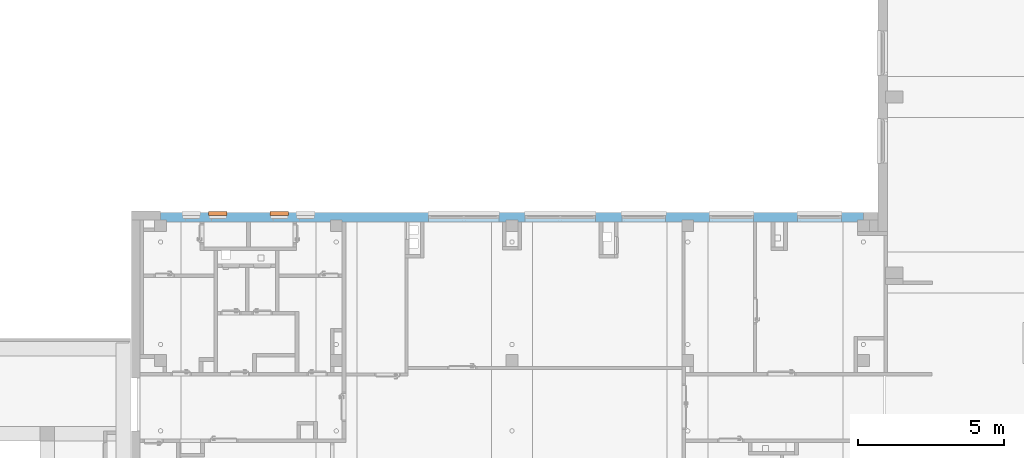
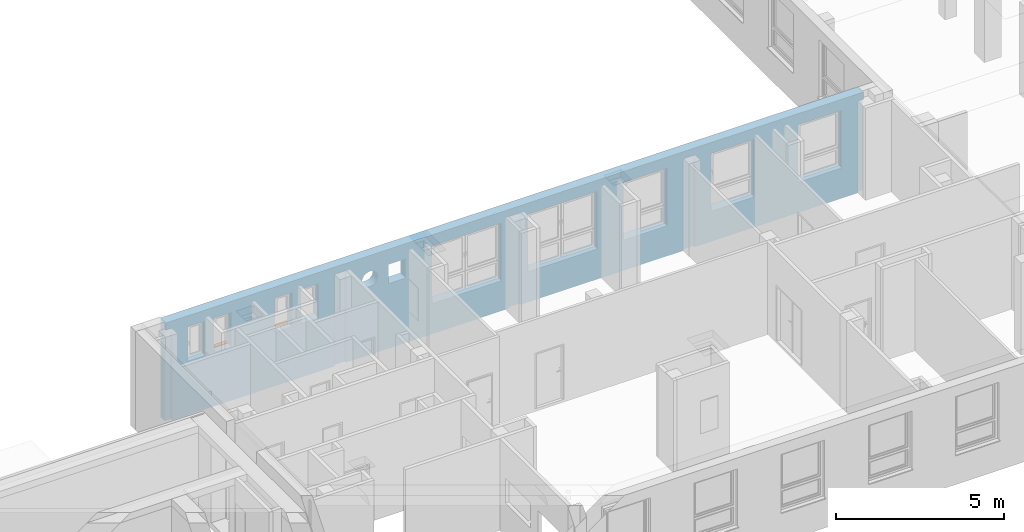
# One storey, part 38 of 50: 2 proxies, 11 openings, plus 1 element that does not belong to this part.
"""IFC4 building model written with IfcOpenShell, lengths in metres."""

from ifc_helpers import new_model, entity, si_unit, converted_unit, derived_unit, frame, frame_2d, origin, origin_with_axes, place, context, subcontext, project, spatial, polyline, rectangle, outline, extrude, clip, bounded_halfspace, faceted_brep, source, transform, mapped, material, layer, layer_set, layer_usage, element, fill, save


model = new_model("IFC4")

# Units and contexts
model_context = context("Model", 3, precision=1e-05, world=origin())
body_context = subcontext(model_context, "Body", "Model", "MODEL_VIEW")
ifc_project = project(units=[si_unit("LENGTHUNIT", "METRE"), si_unit("AREAUNIT", "SQUARE_METRE"), si_unit("VOLUMEUNIT", "CUBIC_METRE"), si_unit("MASSUNIT", "GRAM", prefix="KILO"), converted_unit("PLANEANGLEUNIT", "DEGREE", entity("IfcPlaneAngleMeasure", 0.0174532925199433), si_unit("PLANEANGLEUNIT", "RADIAN"), dimensions=[0, 0, 0, 0, 0, 0, 0]), derived_unit("THERMALTRANSMITTANCEUNIT", [(si_unit("POWERUNIT", "WATT"), 1), (si_unit("THERMODYNAMICTEMPERATUREUNIT", "KELVIN"), -1), (si_unit("LENGTHUNIT", "METRE"), -2)]), derived_unit("VOLUMETRICFLOWRATEUNIT", [(si_unit("LENGTHUNIT", "METRE"), 3), (converted_unit("TIMEUNIT", "hour", entity("IfcTimeMeasure", 3600.0), si_unit("TIMEUNIT", "SECOND"), dimensions=[0, 0, 1, 0, 0, 0, 0]), -1), (si_unit("LENGTHUNIT", "METRE"), -1)])], contexts=[model_context])

# Site, building, storey
site_placement = place(None, origin())
site = spatial("IfcSite", under=ifc_project, at=site_placement, Name="3. ASŘ", CompositionType="ELEMENT")
building_placement = place(site_placement, origin())
building = spatial("IfcBuilding", under=site, at=building_placement, Name="Pavilon C", CompositionType="ELEMENT")
storey_placement = place(building_placement, frame((0.0, 0.0, 3.6)))
storey = spatial("IfcBuildingStorey", under=building, at=storey_placement, Name="Půdorys 2.NP", CompositionType="ELEMENT", Elevation=3.6)

# Wall, openings, proxies
ifc_material_1 = material(Name="ZELEZOBETONOVÁ KCE")
ifc_layer = layer(ifc_material_1, 0.32)
ifc_layer_set = layer_set([ifc_layer])
ifc_layer_usage = layer_usage(ifc_layer_set, "AXIS2", "POSITIVE", 0.0)
wall_placement = place(storey_placement, frame((24.0, 15.25, -0.1), z_axis=(0.0, 0.0, 1.0), x_axis=(-1.0, 0.0, 0.0)))
wall = element("IfcWall", 1, at=wall_placement, inside=storey, material=ifc_layer_usage, Name="ZELEZOBETONOVÁ KCE", context=body_context, shape_type="Clipping", body=[
    clip(clip(clip(clip(clip(extrude(rectangle(XDim=24.0, YDim=0.32, at=frame_2d((12.0, 0.16), x_axis=(1.0, 0.0))), origin_with_axes(), (0.0, 0.0, 1.0), 3.6), bounded_halfspace(frame((23.9, 0.285000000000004, 3.35), z_axis=(0.0, 0.0, 1.0), x_axis=(1.0, 0.0, 0.0)), True, origin_with_axes(), polyline([(23.8, 0.250000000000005), (24.0, 0.250000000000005), (24.0, 0.32), (23.8, 0.320000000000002), (23.8, 0.250000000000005)]))), bounded_halfspace(frame((0.0999999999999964, 0.285000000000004, 3.35), z_axis=(0.0, 0.0, 1.0), x_axis=(1.0, 0.0, 0.0)), True, origin_with_axes(), polyline([(0.0, 0.250000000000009), (0.199999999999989, 0.250000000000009), (0.199999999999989, 0.320000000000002), (0.0, 0.32), (0.0, 0.250000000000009)]))), bounded_halfspace(frame((12.0, 0.285000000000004, 3.35), z_axis=(0.0, 0.0, 1.0), x_axis=(1.0, 0.0, 0.0)), True, origin_with_axes(), polyline([(11.8, 0.250000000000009), (12.2, 0.250000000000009), (12.2, 0.32), (11.8, 0.32), (11.8, 0.250000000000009)]))), bounded_halfspace(frame((5.99999999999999, 0.285000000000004, 3.35), z_axis=(0.0, 0.0, 1.0), x_axis=(1.0, 0.0, 0.0)), True, origin_with_axes(), polyline([(5.79999999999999, 0.250000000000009), (6.19999999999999, 0.250000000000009), (6.19999999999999, 0.32), (5.79999999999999, 0.32), (5.79999999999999, 0.250000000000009)]))), bounded_halfspace(frame((18.0, 0.285000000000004, 3.35), z_axis=(0.0, 0.0, 1.0), x_axis=(1.0, 0.0, 0.0)), True, origin_with_axes(), polyline([(17.8, 0.250000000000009), (18.2, 0.250000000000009), (18.2, 0.32), (17.8, 0.32), (17.8, 0.250000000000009)]))),
])
opening_1_placement = place(wall_placement, frame((16.7, 0.0, 2.475), z_axis=(0.0, 1.0, 0.0), x_axis=(0.0, 0.0, 1.0)))
element("IfcOpeningElement", 2, at=opening_1_placement, cuts=wall, Name="Prostup stěnou", ObjectType="Opening", context=body_context, shape_type="SweptSolid", body=[
    extrude(outline(polyline([(0.274999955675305, 0.55), (0.303745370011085, 0.548493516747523), (0.332175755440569, 0.543990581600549), (0.359979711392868, 0.536540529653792), (0.386852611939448, 0.526224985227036), (0.412500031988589, 0.5131569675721), (0.436640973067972, 0.497479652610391), (0.459010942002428, 0.479364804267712), (0.479364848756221, 0.459010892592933), (0.497479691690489, 0.436640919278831), (0.513157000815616, 0.412499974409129), (0.526225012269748, 0.38685255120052), (0.536540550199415, 0.35997964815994), (0.54399059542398, 0.332175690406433), (0.548493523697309, 0.303745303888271), (0.549999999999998, 0.274999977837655), (0.548493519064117, 0.246254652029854), (0.543990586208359, 0.217824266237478), (0.536540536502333, 0.190020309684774), (0.526224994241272, 0.163147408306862), (0.51315697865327, 0.137499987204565), (0.497479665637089, 0.113359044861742), (0.479364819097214, 0.090989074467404), (0.459010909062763, 0.0706351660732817), (0.436640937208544, 0.0525203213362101), (0.412499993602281, 0.0368430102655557), (0.386852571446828, 0.0237749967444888), (0.35997966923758, 0.0134594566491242), (0.332175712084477, 0.00600940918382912), (0.303745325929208, 0.00150647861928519), (0.274999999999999, 0.0), (0.24625467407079, 0.00150647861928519), (0.217824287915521, 0.00600940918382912), (0.190020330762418, 0.0134594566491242), (0.16314742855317, 0.0237749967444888), (0.137500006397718, 0.0368430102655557), (0.113359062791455, 0.0525203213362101), (0.0909890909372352, 0.0706351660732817), (0.0706351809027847, 0.090989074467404), (0.0525203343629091, 0.113359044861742), (0.0368430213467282, 0.137499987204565), (0.0237750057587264, 0.163147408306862), (0.0134594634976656, 0.190020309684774), (0.00600941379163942, 0.217824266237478), (0.00150648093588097, 0.246254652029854), (0.0, 0.274999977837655), (0.00150647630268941, 0.303745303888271), (0.00600940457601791, 0.332175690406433), (0.0134594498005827, 0.35997964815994), (0.0237749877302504, 0.38685255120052), (0.0368429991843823, 0.412499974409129), (0.0525203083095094, 0.436640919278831), (0.0706351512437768, 0.459010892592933), (0.0909890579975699, 0.479364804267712), (0.113359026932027, 0.497479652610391), (0.137499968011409, 0.5131569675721), (0.16314738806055, 0.526224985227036), (0.19002028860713, 0.536540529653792), (0.21782424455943, 0.543990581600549), (0.246254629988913, 0.548493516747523), (0.274999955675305, 0.55)])), origin_with_axes(), (0.0, 0.0, 1.0), 0.32),
])
opening_2_placement = place(wall_placement, frame((15.75, 0.0, 2.35), z_axis=(0.0, 1.0, 0.0), x_axis=(0.0, 0.0, 1.0)))
element("IfcOpeningElement", 3, at=opening_2_placement, cuts=wall, Name="Prostup stěnou", ObjectType="Opening", context=body_context, shape_type="SweptSolid", body=[
    extrude(outline(polyline([(0.0, 0.6), (0.7, 0.6), (0.7, 0.0), (0.0, 0.0), (0.0, 0.6)])), origin_with_axes(), (0.0, 0.0, 1.0), 0.32),
])
opening_3_placement = place(wall_placement, frame((12.45, 0.0, 1.1), z_axis=(0.0, 1.0, 0.0), x_axis=(0.0, 0.0, 1.0)))
element("IfcOpeningElement", 4, at=opening_3_placement, cuts=wall, Name="Okenní otvor", ObjectType="Opening", context=body_context, shape_type="SweptSolid", body=[
    extrude(outline(polyline([(0.0, 2.4), (2.1, 2.4), (2.1, 0.0), (0.0, 0.0), (0.0, 2.4)])), origin_with_axes(), (0.0, 0.0, 1.0), 0.32),
])
opening_4_placement = place(wall_placement, frame((9.15000000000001, 0.0, 1.1), z_axis=(0.0, 1.0, 0.0), x_axis=(0.0, 0.0, 1.0)))
element("IfcOpeningElement", 5, at=opening_4_placement, cuts=wall, Name="Okenní otvor", ObjectType="Opening", context=body_context, shape_type="SweptSolid", body=[
    extrude(outline(polyline([(0.0, 2.4), (2.1, 2.4), (2.1, 0.0), (0.0, 0.0), (0.0, 2.4)])), origin_with_axes(), (0.0, 0.0, 1.0), 0.32),
])
opening_5_placement = place(wall_placement, frame((0.750000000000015, 0.0, 1.1), z_axis=(0.0, 1.0, 0.0), x_axis=(0.0, 0.0, 1.0)))
element("IfcOpeningElement", 6, at=opening_5_placement, cuts=wall, Name="Okenní otvor", ObjectType="Opening", context=body_context, shape_type="SweptSolid", body=[
    extrude(outline(polyline([(0.0, 1.5), (2.1, 1.5), (2.1, 0.0), (0.0, 0.0), (0.0, 1.5)])), origin_with_axes(), (0.0, 0.0, 1.0), 0.32),
])
opening_6_placement = place(wall_placement, frame((3.75000000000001, 0.0, 1.1), z_axis=(0.0, 1.0, 0.0), x_axis=(0.0, 0.0, 1.0)))
element("IfcOpeningElement", 7, at=opening_6_placement, cuts=wall, Name="Okenní otvor", ObjectType="Opening", context=body_context, shape_type="SweptSolid", body=[
    extrude(outline(polyline([(0.0, 1.5), (2.1, 1.5), (2.1, 0.0), (0.0, 0.0), (0.0, 1.5)])), origin_with_axes(), (0.0, 0.0, 1.0), 0.32),
])
opening_7_placement = place(wall_placement, frame((6.75000000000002, 0.0, 1.1), z_axis=(0.0, 1.0, 0.0), x_axis=(0.0, 0.0, 1.0)))
element("IfcOpeningElement", 8, at=opening_7_placement, cuts=wall, Name="Okenní otvor", ObjectType="Opening", context=body_context, shape_type="SweptSolid", body=[
    extrude(outline(polyline([(0.0, 1.5), (2.1, 1.5), (2.1, 0.0), (0.0, 0.0), (0.0, 1.5)])), origin_with_axes(), (0.0, 0.0, 1.0), 0.32),
])
opening_8_placement = place(wall_placement, frame((22.65, 0.0, 1.95), z_axis=(0.0, 1.0, 0.0), x_axis=(0.0, 0.0, 1.0)))
element("IfcOpeningElement", 9, at=opening_8_placement, cuts=wall, Name="Okenní otvor", ObjectType="Opening", context=body_context, shape_type="SweptSolid", body=[
    extrude(outline(polyline([(0.0, 0.6), (1.25, 0.6), (1.25, 0.0), (0.0, 0.0), (0.0, 0.6)])), origin_with_axes(), (0.0, 0.0, 1.0), 0.32),
])
opening_9_placement = place(wall_placement, frame((18.75, 0.0, 1.95), z_axis=(0.0, 1.0, 0.0), x_axis=(0.0, 0.0, 1.0)))
element("IfcOpeningElement", 10, at=opening_9_placement, cuts=wall, Name="Okenní otvor", ObjectType="Opening", context=body_context, shape_type="SweptSolid", body=[
    extrude(outline(polyline([(0.0, 0.6), (1.25, 0.6), (1.25, 0.0), (0.0, 0.0), (0.0, 0.6)])), origin_with_axes(), (0.0, 0.0, 1.0), 0.32),
])
opening_10_placement = place(wall_placement, frame((19.65, 0.0, 1.95), z_axis=(0.0, 1.0, 0.0), x_axis=(0.0, 0.0, 1.0)))
opening_10 = element("IfcOpeningElement", 11, at=opening_10_placement, cuts=wall, Name="Okenní otvor", ObjectType="Opening", context=body_context, shape_type="SweptSolid", body=[
    extrude(outline(polyline([(0.0, 0.6), (1.25, 0.6), (1.25, 0.0), (0.0, 0.0), (0.0, 0.6)])), origin_with_axes(), (0.0, 0.0, 1.0), 0.32),
])
opening_11_placement = place(wall_placement, frame((21.75, 0.0, 1.95), z_axis=(0.0, 1.0, 0.0), x_axis=(0.0, 0.0, 1.0)))
opening_11 = element("IfcOpeningElement", 12, at=opening_11_placement, cuts=wall, Name="Okenní otvor", ObjectType="Opening", context=body_context, shape_type="SweptSolid", body=[
    extrude(outline(polyline([(0.0, 0.6), (1.25, 0.6), (1.25, 0.0), (0.0, 0.0), (0.0, 0.6)])), origin_with_axes(), (0.0, 0.0, 1.0), 0.32),
])
ifc_material_2 = material(Name="PLECH")
shared_shape_1 = source(origin_with_axes(), body_context, "Body", "Brep", [
    faceted_brep([(3.63797880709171e-15, 0.0, 0.0), (3.63797880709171e-15, 0.1, 0.0), (3.63797880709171e-15, 0.1, 0.005), (3.63797880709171e-15, 0.0, 0.005), (0.600000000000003, 0.0, 0.0), (0.600000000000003, 0.0, 0.005), (0.600000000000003, 0.1, 0.005), (0.600000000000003, 0.1, 0.0), (-0.0199999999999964, 0.0, 0.0), (-0.0199999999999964, -0.035, 0.0), (0.620000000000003, -0.035, 0.0), (0.620000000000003, 0.0, 0.0), (0.620000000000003, 0.0, 0.005), (0.620000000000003, -0.04, 0.005), (-0.0199999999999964, -0.04, 0.005), (-0.0199999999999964, 0.0, 0.005), (-0.0199999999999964, -0.04, -0.025), (-0.0199999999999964, -0.035, -0.025), (0.620000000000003, -0.035, -0.025), (0.620000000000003, -0.04, -0.025)], [[[0, 1, 2, 3]], [[4, 5, 6, 7]], [[1, 0, 8, 9, 10, 11, 4, 7]], [[2, 1, 7, 6]], [[3, 2, 6, 5, 12, 13, 14, 15]], [[8, 15, 14, 16, 17, 9]], [[11, 10, 18, 19, 13, 12]], [[15, 8, 0, 3]], [[5, 4, 11, 12]], [[16, 14, 13, 19]], [[17, 16, 19, 18]], [[9, 17, 18, 10]]], orient=[[False], [False], [False], [False], [False], [False], [False], [False], [False], [False], [False], [False]]),
    faceted_brep([(-0.0199999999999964, 0.0, 0.0), (-0.0199999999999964, 0.1, 0.0), (-0.0199999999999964, 0.1, 0.005), (-0.0199999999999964, 0.0, 0.005), (3.63797880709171e-15, 0.0, 0.0), (3.63797880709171e-15, 0.0, 0.005), (3.63797880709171e-15, 0.1, 0.005), (3.63797880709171e-15, 0.1, 0.0)], [[[0, 1, 2, 3]], [[4, 5, 6, 7]], [[1, 0, 4, 7]], [[2, 1, 7, 6]], [[3, 2, 6, 5]], [[0, 3, 5, 4]]], orient=[[False], [False], [False], [False], [False], [False]]),
    faceted_brep([(0.600000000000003, 0.0, 0.0), (0.600000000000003, 0.1, 0.0), (0.600000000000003, 0.1, 0.005), (0.600000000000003, 0.0, 0.005), (0.620000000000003, 0.0, 0.0), (0.620000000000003, 0.0, 0.005), (0.620000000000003, 0.1, 0.005), (0.620000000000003, 0.1, 0.0)], [[[0, 1, 2, 3]], [[4, 5, 6, 7]], [[1, 0, 4, 7]], [[2, 1, 7, 6]], [[3, 2, 6, 5]], [[0, 3, 5, 4]]], orient=[[False], [False], [False], [False], [False], [False]]),
])
proxy_1_placement = place(opening_10_placement, frame((0.0, 0.0, 0.0), z_axis=(1.0, 0.0, 0.0), x_axis=(0.0, 1.0, 0.0)))
proxy_1 = element("IfcBuildingElementProxy", 13, at=proxy_1_placement, inside=storey, material=ifc_material_2, Name="f", context=body_context, shape_type="MappedRepresentation", body=[
    mapped(shared_shape_1, transform((0.0, 0.0, 0.0), x_axis=(1.0, 0.0, 0.0), y_axis=(0.0, 1.0, 0.0), z_axis=(0.0, 0.0, 1.0), scale=1.0)),
])
fill(opening_10, proxy_1)
ifc_material_3 = material(Name="PLECH")
shared_shape_2 = source(origin_with_axes(), body_context, "Body", "Brep", [
    faceted_brep([(3.18323145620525e-15, 0.0, 0.0), (3.18323145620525e-15, 0.1, 0.0), (3.18323145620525e-15, 0.1, 0.005), (3.18323145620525e-15, 0.0, 0.005), (0.600000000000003, 0.0, 0.0), (0.600000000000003, 0.0, 0.005), (0.600000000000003, 0.1, 0.005), (0.600000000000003, 0.1, 0.0), (-0.0199999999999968, 0.0, 0.0), (-0.0199999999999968, -0.035, 0.0), (0.620000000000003, -0.035, 0.0), (0.620000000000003, 0.0, 0.0), (0.620000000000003, 0.0, 0.005), (0.620000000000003, -0.04, 0.005), (-0.0199999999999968, -0.04, 0.005), (-0.0199999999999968, 0.0, 0.005), (-0.0199999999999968, -0.04, -0.025), (-0.0199999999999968, -0.035, -0.025), (0.620000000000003, -0.035, -0.025), (0.620000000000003, -0.04, -0.025)], [[[0, 1, 2, 3]], [[4, 5, 6, 7]], [[1, 0, 8, 9, 10, 11, 4, 7]], [[2, 1, 7, 6]], [[3, 2, 6, 5, 12, 13, 14, 15]], [[8, 15, 14, 16, 17, 9]], [[11, 10, 18, 19, 13, 12]], [[15, 8, 0, 3]], [[5, 4, 11, 12]], [[16, 14, 13, 19]], [[17, 16, 19, 18]], [[9, 17, 18, 10]]], orient=[[False], [False], [False], [False], [False], [False], [False], [False], [False], [False], [False], [False]]),
    faceted_brep([(-0.0199999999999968, 0.0, 0.0), (-0.0199999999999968, 0.1, 0.0), (-0.0199999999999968, 0.1, 0.005), (-0.0199999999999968, 0.0, 0.005), (3.18323145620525e-15, 0.0, 0.0), (3.18323145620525e-15, 0.0, 0.005), (3.18323145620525e-15, 0.1, 0.005), (3.18323145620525e-15, 0.1, 0.0)], [[[0, 1, 2, 3]], [[4, 5, 6, 7]], [[1, 0, 4, 7]], [[2, 1, 7, 6]], [[3, 2, 6, 5]], [[0, 3, 5, 4]]], orient=[[False], [False], [False], [False], [False], [False]]),
    faceted_brep([(0.600000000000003, 0.0, 0.0), (0.600000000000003, 0.1, 0.0), (0.600000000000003, 0.1, 0.005), (0.600000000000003, 0.0, 0.005), (0.620000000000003, 0.0, 0.0), (0.620000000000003, 0.0, 0.005), (0.620000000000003, 0.1, 0.005), (0.620000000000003, 0.1, 0.0)], [[[0, 1, 2, 3]], [[4, 5, 6, 7]], [[1, 0, 4, 7]], [[2, 1, 7, 6]], [[3, 2, 6, 5]], [[0, 3, 5, 4]]], orient=[[False], [False], [False], [False], [False], [False]]),
])
proxy_2_placement = place(opening_11_placement, frame((0.0, 0.0, 0.0), z_axis=(1.0, 0.0, 0.0), x_axis=(0.0, 1.0, 0.0)))
proxy_2 = element("IfcBuildingElementProxy", 14, at=proxy_2_placement, inside=storey, material=ifc_material_3, Name="f", context=body_context, shape_type="MappedRepresentation", body=[
    mapped(shared_shape_2, transform((0.0, 0.0, 0.0), x_axis=(1.0, 0.0, 0.0), y_axis=(0.0, 1.0, 0.0), z_axis=(0.0, 0.0, 1.0), scale=1.0)),
])
fill(opening_11, proxy_2)

save(model, "model.ifc")
